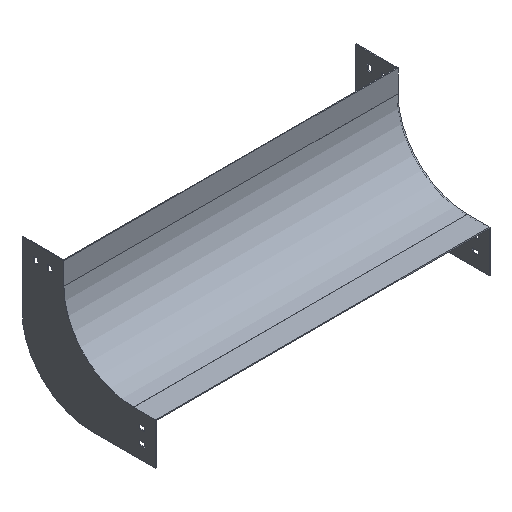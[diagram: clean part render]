
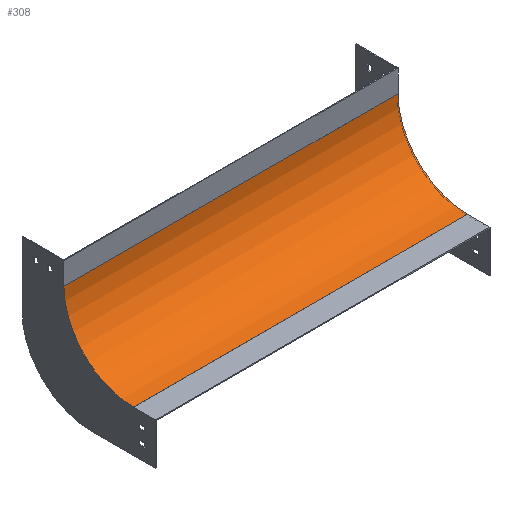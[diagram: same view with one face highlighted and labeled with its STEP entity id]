
A CAD part, isometric view. The second image highlights one B-rep face of the part: STEP entity #308.
In plain terms, the highlighted cylindrical face has radius 125 mm (diameter 250 mm), a partial arc.
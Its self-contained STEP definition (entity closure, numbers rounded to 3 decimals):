
#27 = LINE ( 'NONE', #1449, #448 ) ;
#99 = VECTOR ( 'NONE', #1132, 1000. ) ;
#139 = FACE_OUTER_BOUND ( 'NONE', #805, .T. ) ;
#154 = CARTESIAN_POINT ( 'NONE',  ( -300., -125., -165. ) ) ;
#184 = DIRECTION ( 'NONE',  ( -1., 0., 0. ) ) ;
#193 = CARTESIAN_POINT ( 'NONE',  ( 300., -125., -165. ) ) ;
#250 = CIRCLE ( 'NONE', #674, 125. ) ;
#297 = DIRECTION ( 'NONE',  ( -1., 0., 0. ) ) ;
#306 = ORIENTED_EDGE ( 'NONE', *, *, #1021, .T. ) ;
#308 = ADVANCED_FACE ( 'NONE', ( #139 ), #1189, .F. ) ;
#329 = ORIENTED_EDGE ( 'NONE', *, *, #1315, .T. ) ;
#330 = VERTEX_POINT ( 'NONE', #154 ) ;
#351 = ORIENTED_EDGE ( 'NONE', *, *, #854, .F. ) ;
#389 = DIRECTION ( 'NONE',  ( 0., 0., 1. ) ) ;
#393 = EDGE_CURVE ( 'NONE', #774, #562, #250, .T. ) ;
#405 = CARTESIAN_POINT ( 'NONE',  ( 300., -125., -40. ) ) ;
#448 = VECTOR ( 'NONE', #297, 1000. ) ;
#451 = AXIS2_PLACEMENT_3D ( 'NONE', #1348, #184, #701 ) ;
#538 = DIRECTION ( 'NONE',  ( -1., 0., 0. ) ) ;
#562 = VERTEX_POINT ( 'NONE', #193 ) ;
#586 = CIRCLE ( 'NONE', #451, 125. ) ;
#674 = AXIS2_PLACEMENT_3D ( 'NONE', #1422, #538, #389 ) ;
#701 = DIRECTION ( 'NONE',  ( 0., 0., 1. ) ) ;
#740 = LINE ( 'NONE', #1107, #99 ) ;
#742 = VERTEX_POINT ( 'NONE', #1013 ) ;
#774 = VERTEX_POINT ( 'NONE', #1393 ) ;
#803 = DIRECTION ( 'NONE',  ( 0., 0., 1. ) ) ;
#805 = EDGE_LOOP ( 'NONE', ( #329, #351, #1351, #306 ) ) ;
#854 = EDGE_CURVE ( 'NONE', #562, #330, #740, .T. ) ;
#1013 = CARTESIAN_POINT ( 'NONE',  ( -300., 0., -40. ) ) ;
#1021 = EDGE_CURVE ( 'NONE', #774, #742, #27, .T. ) ;
#1107 = CARTESIAN_POINT ( 'NONE',  ( 300., -125., -165. ) ) ;
#1132 = DIRECTION ( 'NONE',  ( -1., 0., 0. ) ) ;
#1189 = CYLINDRICAL_SURFACE ( 'NONE', #1579, 125. ) ;
#1292 = DIRECTION ( 'NONE',  ( -1., 0., 0. ) ) ;
#1315 = EDGE_CURVE ( 'NONE', #742, #330, #586, .T. ) ;
#1348 = CARTESIAN_POINT ( 'NONE',  ( -300., -125., -40. ) ) ;
#1351 = ORIENTED_EDGE ( 'NONE', *, *, #393, .F. ) ;
#1393 = CARTESIAN_POINT ( 'NONE',  ( 300., 0., -40. ) ) ;
#1422 = CARTESIAN_POINT ( 'NONE',  ( 300., -125., -40. ) ) ;
#1449 = CARTESIAN_POINT ( 'NONE',  ( 300., 0., -40. ) ) ;
#1579 = AXIS2_PLACEMENT_3D ( 'NONE', #405, #1292, #803 ) ;
